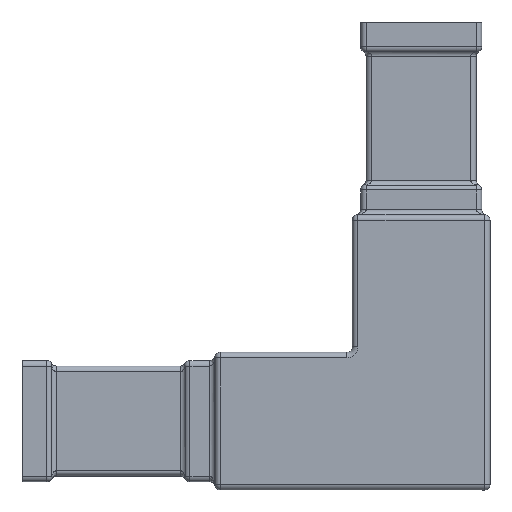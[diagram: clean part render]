
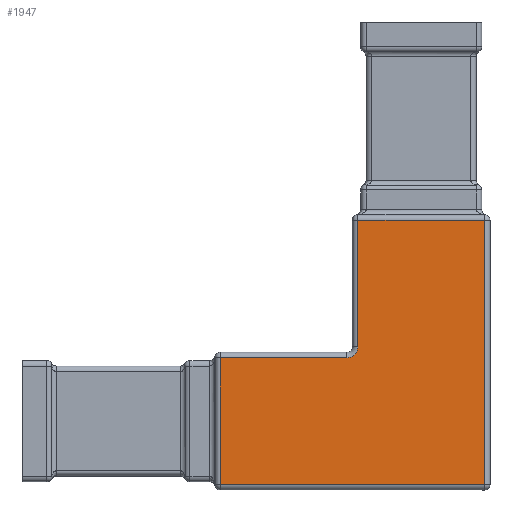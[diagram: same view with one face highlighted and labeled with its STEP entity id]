
A CAD part, left-side view. The second image highlights one B-rep face of the part: STEP entity #1947.
In plain terms, the highlighted planar face has unit normal (-1, 0, 0).
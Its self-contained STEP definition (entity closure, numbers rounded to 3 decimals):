
#10 = ORIENTED_EDGE ( 'NONE', *, *, #1885, .T. ) ;
#36 = VERTEX_POINT ( 'NONE', #322 ) ;
#267 = LINE ( 'NONE', #5280, #2407 ) ;
#322 = CARTESIAN_POINT ( 'NONE',  ( -12.5, 11.5, -30.5 ) ) ;
#372 = ORIENTED_EDGE ( 'NONE', *, *, #6305, .T. ) ;
#481 = DIRECTION ( 'NONE',  ( 0., 0., -1. ) ) ;
#649 = VERTEX_POINT ( 'NONE', #4656 ) ;
#899 = FACE_OUTER_BOUND ( 'NONE', #3919, .T. ) ;
#1065 = DIRECTION ( 'NONE',  ( 0., 0., -1. ) ) ;
#1141 = CARTESIAN_POINT ( 'NONE',  ( -12.5, 36.5, -54.5 ) ) ;
#1191 = EDGE_CURVE ( 'NONE', #5772, #649, #4114, .T. ) ;
#1229 = EDGE_CURVE ( 'NONE', #6268, #5443, #2324, .T. ) ;
#1460 = PLANE ( 'NONE',  #3381 ) ;
#1472 = DIRECTION ( 'NONE',  ( 1., 0., 0. ) ) ;
#1885 = EDGE_CURVE ( 'NONE', #5443, #36, #4950, .T. ) ;
#1947 = ADVANCED_FACE ( 'NONE', ( #899 ), #1460, .F. ) ;
#2191 = VERTEX_POINT ( 'NONE', #5183 ) ;
#2324 = LINE ( 'NONE', #3729, #5211 ) ;
#2325 = VECTOR ( 'NONE', #1065, 1000. ) ;
#2332 = CARTESIAN_POINT ( 'NONE',  ( -12.5, 11.5, -53.5 ) ) ;
#2407 = VECTOR ( 'NONE', #2712, 1000. ) ;
#2428 = DIRECTION ( 'NONE',  ( 0., 0., -1. ) ) ;
#2566 = DIRECTION ( 'NONE',  ( 0., 0., 1. ) ) ;
#2594 = CARTESIAN_POINT ( 'NONE',  ( -12.5, 11.5, -53.5 ) ) ;
#2600 = LINE ( 'NONE', #2823, #3148 ) ;
#2712 = DIRECTION ( 'NONE',  ( 0., 1., 0. ) ) ;
#2745 = VECTOR ( 'NONE', #2566, 1000. ) ;
#2823 = CARTESIAN_POINT ( 'NONE',  ( -12.5, -12.5, -78.5 ) ) ;
#3148 = VECTOR ( 'NONE', #6346, 1000. ) ;
#3190 = VERTEX_POINT ( 'NONE', #2332 ) ;
#3209 = DIRECTION ( 'NONE',  ( 0., 0., 1. ) ) ;
#3381 = AXIS2_PLACEMENT_3D ( 'NONE', #3972, #5437, #2428 ) ;
#3383 = ORIENTED_EDGE ( 'NONE', *, *, #4757, .T. ) ;
#3619 = VECTOR ( 'NONE', #4922, 1000. ) ;
#3729 = CARTESIAN_POINT ( 'NONE',  ( -12.5, -11.5, -67. ) ) ;
#3870 = ORIENTED_EDGE ( 'NONE', *, *, #4304, .T. ) ;
#3905 = CARTESIAN_POINT ( 'NONE',  ( -12.5, 12.5, -30.5 ) ) ;
#3919 = EDGE_LOOP ( 'NONE', ( #372, #4129, #10, #3383, #4489, #3870, #4033 ) ) ;
#3944 = CARTESIAN_POINT ( 'NONE',  ( -12.5, -11.5, -30.5 ) ) ;
#3972 = CARTESIAN_POINT ( 'NONE',  ( -12.5, -12.5, -67. ) ) ;
#4033 = ORIENTED_EDGE ( 'NONE', *, *, #1191, .F. ) ;
#4114 = LINE ( 'NONE', #1141, #2745 ) ;
#4129 = ORIENTED_EDGE ( 'NONE', *, *, #1229, .T. ) ;
#4304 = EDGE_CURVE ( 'NONE', #2191, #649, #267, .T. ) ;
#4347 = CARTESIAN_POINT ( 'NONE',  ( -12.5, -11.5, -78.5 ) ) ;
#4445 = AXIS2_PLACEMENT_3D ( 'NONE', #5427, #1472, #481 ) ;
#4489 = ORIENTED_EDGE ( 'NONE', *, *, #5742, .T. ) ;
#4656 = CARTESIAN_POINT ( 'NONE',  ( -12.5, 36.5, -55.5 ) ) ;
#4757 = EDGE_CURVE ( 'NONE', #36, #3190, #5292, .T. ) ;
#4922 = DIRECTION ( 'NONE',  ( 0., 1., 0. ) ) ;
#4950 = LINE ( 'NONE', #3905, #3619 ) ;
#5183 = CARTESIAN_POINT ( 'NONE',  ( -12.5, 13.5, -55.5 ) ) ;
#5211 = VECTOR ( 'NONE', #3209, 1000. ) ;
#5280 = CARTESIAN_POINT ( 'NONE',  ( -12.5, 36.5, -55.5 ) ) ;
#5292 = LINE ( 'NONE', #2594, #2325 ) ;
#5427 = CARTESIAN_POINT ( 'NONE',  ( -12.5, 13.5, -53.5 ) ) ;
#5437 = DIRECTION ( 'NONE',  ( 1., 0., 0. ) ) ;
#5443 = VERTEX_POINT ( 'NONE', #3944 ) ;
#5485 = CARTESIAN_POINT ( 'NONE',  ( -12.5, 36.5, -78.5 ) ) ;
#5742 = EDGE_CURVE ( 'NONE', #3190, #2191, #5816, .T. ) ;
#5772 = VERTEX_POINT ( 'NONE', #5485 ) ;
#5816 = CIRCLE ( 'NONE', #4445, 2. ) ;
#6268 = VERTEX_POINT ( 'NONE', #4347 ) ;
#6305 = EDGE_CURVE ( 'NONE', #5772, #6268, #2600, .T. ) ;
#6346 = DIRECTION ( 'NONE',  ( 0., -1., 0. ) ) ;
